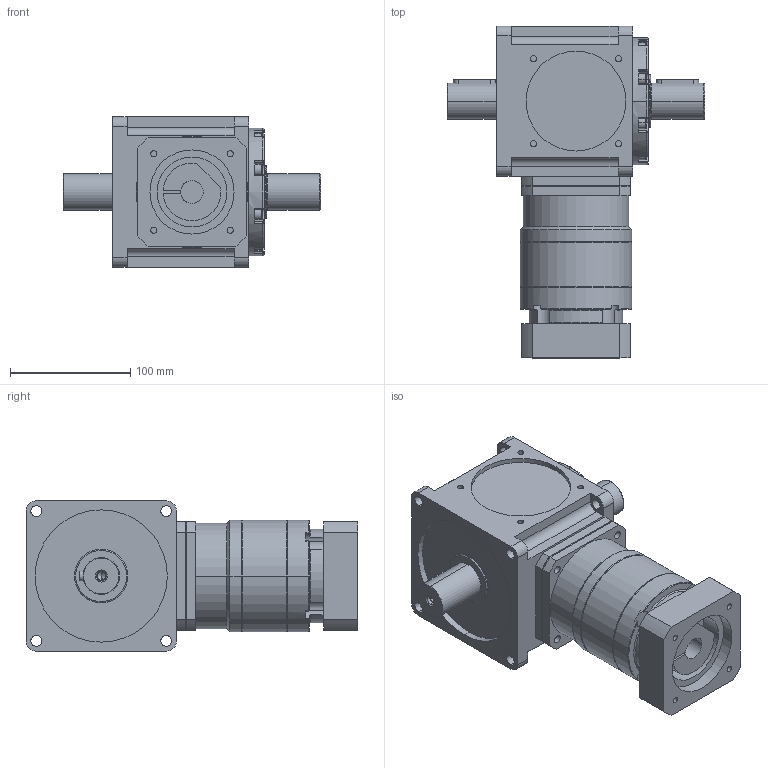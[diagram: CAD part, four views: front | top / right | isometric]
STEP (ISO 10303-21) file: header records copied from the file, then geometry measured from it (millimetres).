
FILE_DESCRIPTION (( 'STEP AP214' ), '1' );
FILE_NAME ('CCW125A-L2(24-200)-2P 19-70-90-M6.STEP', '2025-06-03T03:16:33', ( '微软用户' ), ( '微软中国' ), 'SwSTEP 2.0', 'SolidWorks 2024', '' );
FILE_SCHEMA (( 'AUTOMOTIVE_DESIGN' ));
Length unit declared in the file: millimetre
Products named in the file (3): CCW125A-L2(24-200)-2P 19-70-90-M6; VRB-090-L2-S2-P1 19-70-90-M6; CCW125A-002-2P箱体
Assembly tree (2 placements, depth 2):
  CCW125A-L2(24-200)-2P 19-70-90-M6
    CCW125A-002-2P箱体
    VRB-090-L2-S2-P1 19-70-90-M6
Bounding box: 214 x 276 x 125 mm (x, y, z)
Volume: 2764862.5 mm3; surface area: 203387.1 mm2
Topology: 4 solids, 4 shells, 541 faces, 1291 edges, 795 vertices
Faces by surface type: cylinder 219, plane 194, cone 57, torus 55, sphere 16
Entity records: 15820 total; most frequent: DIRECTION 2948, CARTESIAN_POINT 2793, ORIENTED_EDGE 2538, EDGE_CURVE 1269, AXIS2_PLACEMENT_3D 1176, VERTEX_POINT 795, CIRCLE 630, EDGE_LOOP 624
